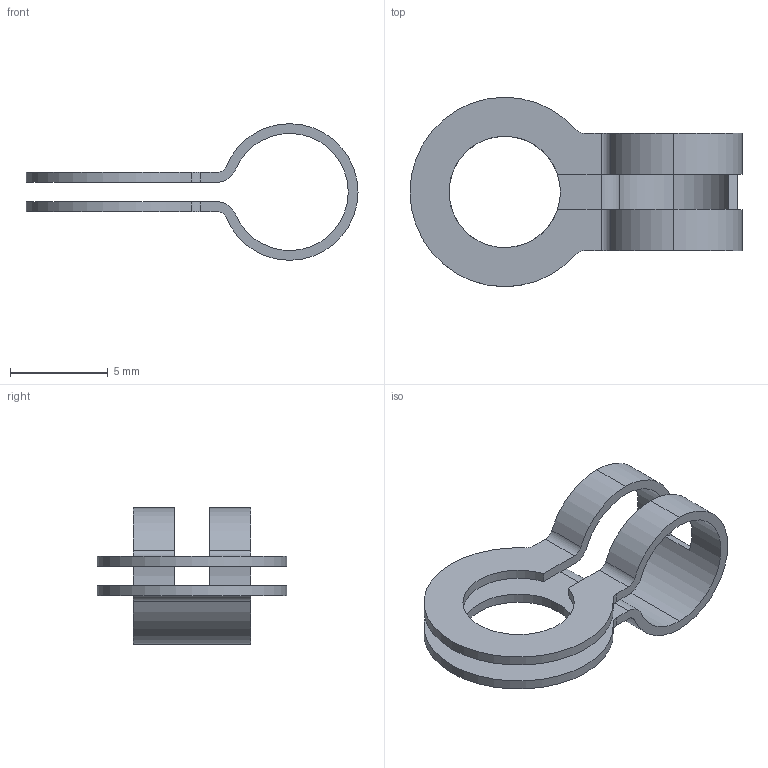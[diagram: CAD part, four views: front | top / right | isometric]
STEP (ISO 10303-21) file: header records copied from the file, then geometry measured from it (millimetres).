
FILE_DESCRIPTION (( 'STEP AP203' ), '1' );
FILE_NAME ('EB-933-4.STEP', '2013-08-21T08:17:32', ( 'SDS' ), ( 'SDS' ), 'SwSTEP 2.0', 'SolidWorks 2002296', '' );
FILE_SCHEMA (( 'CONFIG_CONTROL_DESIGN' ));
Length unit declared in the file: millimetre
Products named in the file (1): EB-933-4
Bounding box: 17 x 9.7 x 7 mm (x, y, z)
Volume: 98.2 mm3; surface area: 469.9 mm2
Topology: 1 solids, 1 shells, 32 faces, 96 edges, 64 vertices
Faces by surface type: cylinder 23, plane 9
Entity records: 1195 total; most frequent: DIRECTION 212, CARTESIAN_POINT 193, ORIENTED_EDGE 192, EDGE_CURVE 96, AXIS2_PLACEMENT_3D 83, VERTEX_POINT 64, CIRCLE 50, LINE 46
